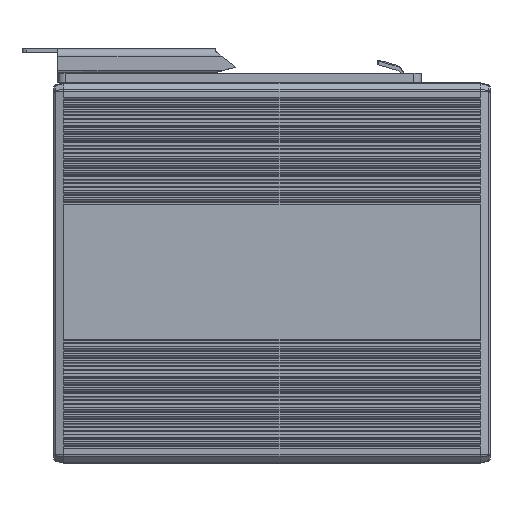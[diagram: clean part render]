
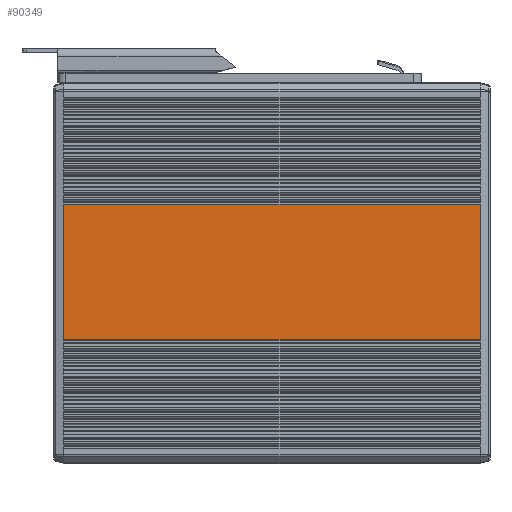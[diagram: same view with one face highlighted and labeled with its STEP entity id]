
A CAD part, left-side view. The second image highlights one B-rep face of the part: STEP entity #90349.
In plain terms, the highlighted planar face has unit normal (-1, 0, 0).
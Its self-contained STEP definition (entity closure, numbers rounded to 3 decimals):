
#7866=DIRECTION('',(0.,0.,1.));
#7867=VECTOR('',#7866,28.);
#7868=CARTESIAN_POINT('',(-20.,-43.,-19.5));
#7869=LINE('',#7868,#7867);
#8166=DIRECTION('',(0.,0.,-1.));
#8167=VECTOR('',#8166,28.);
#8168=CARTESIAN_POINT('',(-20.,43.,8.5));
#8169=LINE('',#8168,#8167);
#8986=DIRECTION('',(0.,1.,0.));
#8987=VECTOR('',#8986,86.);
#8988=CARTESIAN_POINT('',(-20.,-43.,-19.5));
#8989=LINE('',#8988,#8987);
#8990=DIRECTION('',(0.,1.,0.));
#8991=VECTOR('',#8990,86.);
#8992=CARTESIAN_POINT('',(-20.,-43.,8.5));
#8993=LINE('',#8992,#8991);
#65818=CARTESIAN_POINT('',(-20.,-43.,-19.5));
#65819=VERTEX_POINT('',#65818);
#65820=CARTESIAN_POINT('',(-20.,-43.,8.5));
#65821=VERTEX_POINT('',#65820);
#66070=CARTESIAN_POINT('',(-20.,43.,8.5));
#66071=VERTEX_POINT('',#66070);
#66074=CARTESIAN_POINT('',(-20.,43.,-19.5));
#66075=VERTEX_POINT('',#66074);
#90337=CARTESIAN_POINT('',(-20.,-43.,-22.5));
#90338=DIRECTION('',(-1.,0.,0.));
#90339=DIRECTION('',(0.,0.,1.));
#90340=AXIS2_PLACEMENT_3D('',#90337,#90338,#90339);
#90341=PLANE('',#90340);
#90342=ORIENTED_EDGE('',*,*,#88639,.F.);
#90343=ORIENTED_EDGE('',*,*,#90332,.T.);
#90344=ORIENTED_EDGE('',*,*,#88932,.F.);
#90346=ORIENTED_EDGE('',*,*,#90345,.F.);
#90347=EDGE_LOOP('',(#90342,#90343,#90344,#90346));
#90348=FACE_OUTER_BOUND('',#90347,.F.);
#90349=ADVANCED_FACE('',(#90348),#90341,.T.);
#88639=EDGE_CURVE('',#65819,#65821,#7869,.T.);
#88932=EDGE_CURVE('',#66071,#66075,#8169,.T.);
#90332=EDGE_CURVE('',#65819,#66075,#8989,.T.);
#90345=EDGE_CURVE('',#65821,#66071,#8993,.T.);
